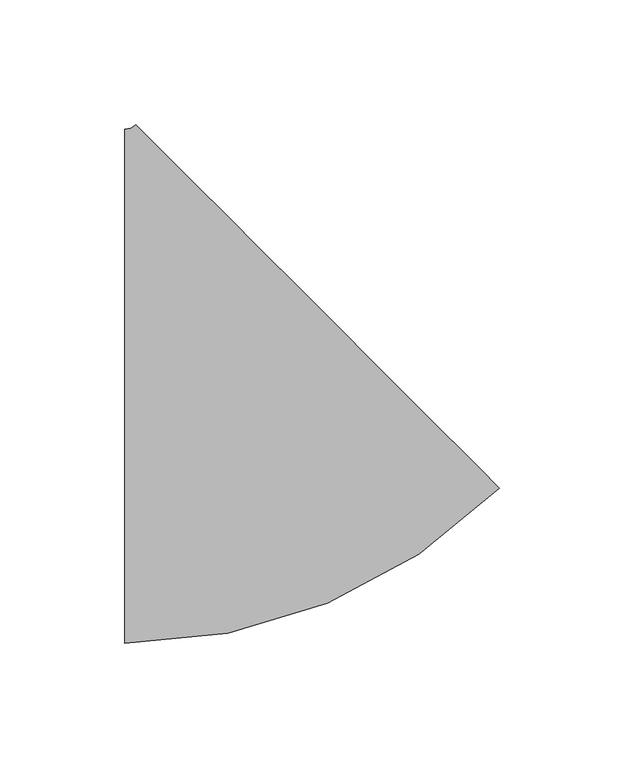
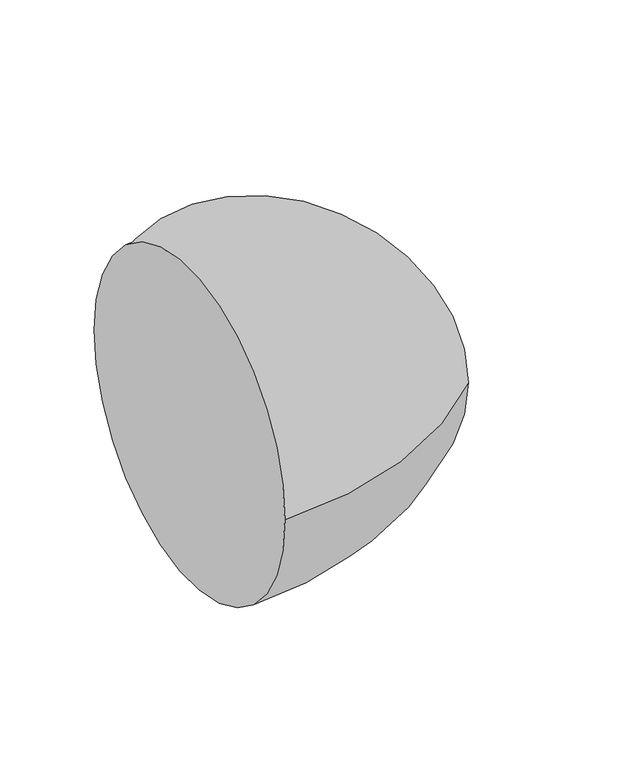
"""IFC4 building model written with IfcOpenShell, lengths in millimetres: pipe fitting geometry, M_Codo - Genérico : Estándar."""

import ifcopenshell
import ifcopenshell.guid

model = None  # the IFC model being written
_history = None  # IfcOwnerHistory: only IFC2X3 demands one
_inside = {}  # id of a spatial element -> (the spatial element, [elements in it])
_under = {}  # id of a project, library or spatial element -> (it, [spatial elements below it])
_declared = {}  # id of a project -> (the project, [libraries it declares])
_typed = {}  # id of a type object -> (the type object, [elements of that type])
_made_of = {}  # id of a material, layer set ... -> (it, [elements and type objects made of it])


def new_model(schema):
    """Start an empty IFC model of exactly this schema.

    Asked for "IFC4X3", IfcOpenShell would pick the latest addendum, in which some entities
    have other attributes; the version numbers below select the first issue.
    IFC2X3 requires an IfcOwnerHistory on every rooted entity: one is made here for all.
    """
    global model, _history
    if schema == "IFC4X3":
        model = ifcopenshell.file(schema_version=(4, 3, 0, 0))
    else:
        model = ifcopenshell.file(schema=schema)
    _inside.clear()
    _under.clear()
    _declared.clear()
    _typed.clear()
    _made_of.clear()
    _history = None
    if model.schema == "IFC2X3":
        org = make("IfcOrganization", Name="unknown")
        user = make(
            "IfcPersonAndOrganization",
            ThePerson=make("IfcPerson", FamilyName="unknown"),
            TheOrganization=org,
        )
        app = make(
            "IfcApplication",
            ApplicationDeveloper=org,
            Version="unknown",
            ApplicationFullName="unknown",
            ApplicationIdentifier="unknown",
        )
        _history = make(
            "IfcOwnerHistory",
            OwningUser=user,
            OwningApplication=app,
            ChangeAction="ADDED",
            CreationDate=0,
        )
    return model


def make(cls, **values):
    """One entity of the class cls with the attributes given. An attribute that is None is left unset."""
    return model.create_entity(
        cls, **{name: value for name, value in values.items() if value is not None}
    )


def rooted(cls, **values):
    """An entity with a GlobalId (a new one), such as an element, a storey or a relation."""
    return make(cls, GlobalId=ifcopenshell.guid.new(), OwnerHistory=_history, **values)


def si_unit(unit_type, name, prefix=None):
    """IfcSIUnit, for example si_unit("LENGTHUNIT", "METRE", prefix="MILLI")."""
    return make("IfcSIUnit", UnitType=unit_type, Prefix=prefix, Name=name)


def assignment(units):
    """IfcUnitAssignment: the units of a project."""
    return None if units is None else make("IfcUnitAssignment", Units=units)


def point(xyz):
    """IfcCartesianPoint."""
    return None if xyz is None else make("IfcCartesianPoint", Coordinates=xyz)


def direction(xyz):
    """IfcDirection."""
    return None if xyz is None else make("IfcDirection", DirectionRatios=xyz)


def frame(location, z_axis=None, x_axis=None):
    """IfcAxis2Placement3D, a coordinate frame: its origin and axes. An axis left out is left unset."""
    return make(
        "IfcAxis2Placement3D",
        Location=point(location),
        Axis=direction(z_axis),
        RefDirection=direction(x_axis),
    )


def origin():
    """The frame at (0, 0, 0) with its axes left unset."""
    return frame((0.0, 0.0, 0.0))


def place(relative_to, where):
    """IfcLocalPlacement: puts the frame where relative to a parent placement (None: the world)."""
    return make(
        "IfcLocalPlacement", PlacementRelTo=relative_to, RelativePlacement=where
    )


def context(
    kind, dimensions, precision=None, world=None, true_north=None, identifier=None
):
    """IfcGeometricRepresentationContext, for example the 3D "Model" context."""
    return make(
        "IfcGeometricRepresentationContext",
        ContextIdentifier=identifier,
        ContextType=kind,
        CoordinateSpaceDimension=dimensions,
        Precision=precision,
        WorldCoordinateSystem=world,
        TrueNorth=true_north,
    )


def project(units=None, contexts=None):
    """IfcProject with its units and contexts."""
    return rooted(
        "IfcProject",
        Name="project",
        RepresentationContexts=contexts,
        UnitsInContext=assignment(units),
    )


def spatial(cls, under=None, at=None, **own):
    """A site, building, storey or space (cls), placed at a placement, below another one or the project."""
    s = rooted(cls, ObjectPlacement=at, **own)
    if under is not None:
        _under.setdefault(under.id(), (under, []))[1].append(s)
    return s


def circle_curve(where, radius):
    """IfcCircle in the frame where."""
    return make("IfcCircle", Position=where, Radius=radius)


def ellipse_curve(where, semi_axis1, semi_axis2):
    """IfcEllipse in the frame where."""
    return make(
        "IfcEllipse", Position=where, SemiAxis1=semi_axis1, SemiAxis2=semi_axis2
    )


def trimmed(basis, trim1, trim2, sense, master):
    """IfcTrimmedCurve: the piece of a basis curve between two trims."""
    return make(
        "IfcTrimmedCurve",
        BasisCurve=basis,
        Trim1=trim1,
        Trim2=trim2,
        SenseAgreement=sense,
        MasterRepresentation=master,
    )


def shape(context_of_items, identifier, shape_type, items):
    """IfcShapeRepresentation: the items that make up one representation, for example the "Body"."""
    return make(
        "IfcShapeRepresentation",
        ContextOfItems=context_of_items,
        RepresentationIdentifier=identifier,
        RepresentationType=shape_type,
        Items=items,
    )


def source(mapping_origin, context_of_items, identifier, shape_type, items):
    """IfcRepresentationMap: a shape defined once, which mapped items show again and again."""
    return make(
        "IfcRepresentationMap",
        MappingOrigin=mapping_origin,
        MappedRepresentation=shape(context_of_items, identifier, shape_type, items),
    )


def transform(
    local_origin,
    x_axis=None,
    y_axis=None,
    z_axis=None,
    scale=None,
    scale2=None,
    scale3=None,
    uniform=True,
):
    """IfcCartesianTransformationOperator3D, or its non-uniform kind. x_axis, y_axis, z_axis: its Axis1, 2, 3."""
    if uniform:
        return make(
            "IfcCartesianTransformationOperator3D",
            Axis1=direction(x_axis),
            Axis2=direction(y_axis),
            LocalOrigin=point(local_origin),
            Scale=scale,
            Axis3=direction(z_axis),
        )
    return make(
        "IfcCartesianTransformationOperator3DnonUniform",
        Axis1=direction(x_axis),
        Axis2=direction(y_axis),
        LocalOrigin=point(local_origin),
        Scale=scale,
        Axis3=direction(z_axis),
        Scale2=scale2,
        Scale3=scale3,
    )


def mapped(mapping_source, mapping_target):
    """IfcMappedItem: shows the shape of a source again, moved by a transform."""
    return make(
        "IfcMappedItem", MappingSource=mapping_source, MappingTarget=mapping_target
    )


def made_of(thing, what):
    """Note that an element or type object is made of a material, layer set ...; save() writes the relation."""
    if what is not None:
        _made_of.setdefault(what.id(), (what, []))[1].append(thing)
    return thing


def element(
    cls,
    number,
    at=None,
    inside=None,
    cuts=None,
    type_object=None,
    material=None,
    context=None,
    identifier="Body",
    shape_type=None,
    held_by="IfcProductDefinitionShape",
    body=None,
    shapes=None,
    **own,
):
    """One element of the class cls, such as IfcWall. Its Tag is "e" and its number.

    at: its placement. inside: the storey or other place that contains it. cuts: it is an
    opening in that element (IfcRelVoidsElement). A single representation is given by context,
    identifier, shape_type and body (its items); several are given by shapes. held_by: the class
    of the entity that holds the representations. save() writes the other relations.
    """
    e = rooted(cls, Tag="e%d" % number, ObjectPlacement=at, **own)
    if body is not None:
        shapes = [shape(context, identifier, shape_type, body)]
    if shapes is not None:
        e.Representation = make(held_by, Representations=shapes)
    if inside is not None:
        _inside.setdefault(inside.id(), (inside, []))[1].append(e)
    if cuts is not None:
        rooted(
            "IfcRelVoidsElement", RelatingBuildingElement=cuts, RelatedOpeningElement=e
        )
    if type_object is not None:
        _typed.setdefault(type_object.id(), (type_object, []))[1].append(e)
    return made_of(e, material)


def aggregate(whole, parts):
    """IfcRelAggregates: a whole, such as a stair, and the parts it consists of."""
    return rooted("IfcRelAggregates", RelatingObject=whole, RelatedObjects=parts)


def save(model, path):
    """Write the relations noted so far, then the file.

    IfcRelAggregates (storeys below a building ...), IfcRelContainedInSpatialStructure (elements
    in a storey), IfcRelDefinesByType, IfcRelAssociatesMaterial and IfcRelDeclares: one each for
    every whole, place, type object, material and project.
    """
    for whole, parts in _under.values():
        aggregate(whole, parts)
    for where, things in _inside.values():
        rooted(
            "IfcRelContainedInSpatialStructure",
            RelatedElements=things,
            RelatingStructure=where,
        )
    for kind, things in _typed.values():
        rooted("IfcRelDefinesByType", RelatedObjects=things, RelatingType=kind)
    for what, things in _made_of.values():
        rooted("IfcRelAssociatesMaterial", RelatedObjects=things, RelatingMaterial=what)
    for by, libraries in _declared.values():
        rooted("IfcRelDeclares", RelatingContext=by, RelatedDefinitions=libraries)
    model.write(path)


def plane_surface(at):
    """IfcPlane: the flat surface through the origin of the frame at, square to its z axis."""
    return make("IfcPlane", Position=at)


def revolved_surface(curve, axis_point, axis_direction):
    """IfcSurfaceOfRevolution: the curve turned about the line through axis_point along axis_direction."""
    return make(
        "IfcSurfaceOfRevolution",
        SweptCurve=make("IfcArbitraryOpenProfileDef", ProfileType="CURVE", Curve=curve),
        AxisPosition=make("IfcAxis1Placement", Location=point(axis_point), Axis=direction(axis_direction)),
    )


def advanced_brep(points, edges, surfaces, faces):
    """IfcAdvancedBrep: a solid bounded by faces that lie on surfaces and meet in shared edges.

    An edge is (start, end): straight between two places in points (the first is 0);
    or (start, end, curve); or (start, end, curve, False) where it runs against its curve.
    A face is (place in surfaces, loops), or (place, loops, False) where it looks against
    its surface's normal. A loop lists edges by number (the first is 1), with a minus sign
    where the edge is run from its end to its start. The first loop is the outer one.
    """
    corners = [point(p) for p in points]
    vertices = [make("IfcVertexPoint", VertexGeometry=c) for c in corners]
    made = []
    for start, end, *more in edges:
        made.append(
            make(
                "IfcEdgeCurve",
                EdgeStart=vertices[start],
                EdgeEnd=vertices[end],
                EdgeGeometry=more[0] if more else make("IfcPolyline", Points=[corners[start], corners[end]]),
                SameSense=more[1] if len(more) > 1 else True,
            )
        )
    hull = []
    for where, loops, *sense in faces:
        bounds = []
        for j, loop in enumerate(loops):
            ring = [make("IfcOrientedEdge", EdgeElement=made[abs(k) - 1], Orientation=k > 0) for k in loop]
            bounds.append(
                make(
                    "IfcFaceOuterBound" if j == 0 else "IfcFaceBound",
                    Bound=make("IfcEdgeLoop", EdgeList=ring),
                    Orientation=True,
                )
            )
        hull.append(make("IfcAdvancedFace", Bounds=bounds, FaceSurface=surfaces[where], SameSense=sense[0] if sense else True))
    return make("IfcAdvancedBrep", Outer=make("IfcClosedShell", CfsFaces=hull))


def pipe_fitting_57378e20(model_context):
    return source(origin(), model_context, "Body", "AdvancedBrep", [
        advanced_brep(
        [(-45.3678488, -103.1875, 0.0), (-45.3678488, 103.1875, 0.0), (105.0419014, -40.8913293, 0.0), (-40.8780055, 105.0470872, 0.0)],
        [
            (0, 1, circle_curve(frame((-45.3678488, 0.0, 0.0), z_axis=(-1.0, 0.0, 0.0), x_axis=(0.0, 1.0, 0.0)), 103.1875)),
            (1, 0, circle_curve(frame((-45.3678488, 0.0, 0.0), z_axis=(-1.0, 0.0, 0.0), x_axis=(0.0, 1.0, 0.0)), 103.1875)),
            (2, 3, circle_curve(frame((32.0819479, 32.0778789, 0.0), z_axis=(0.7071516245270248, 0.7070619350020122, 0.0), x_axis=(-0.7070619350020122, 0.7071516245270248, 0.0)), 103.1875)),
            (3, 2, circle_curve(frame((32.0819479, 32.0778789, 0.0), z_axis=(0.7071516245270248, 0.7070619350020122, 0.0), x_axis=(-0.7070619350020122, 0.7071516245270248, 0.0)), 103.1875)),
            (3, 1, circle_curve(frame((-45.3678488, 109.5375, 0.0), z_axis=(0.0, 0.0, -1.0), x_axis=(0.0, -1.0, 0.0)), 6.35)),
            (0, 2, circle_curve(frame((-45.3678488, 109.5375, 0.0), z_axis=(0.0, 0.0, 1.0), x_axis=(0.0, -1.0, 0.0)), 212.725)),
        ],
        [
            plane_surface(frame((-45.3678488, 0.0, 0.0), z_axis=(-1.0, 0.0, 0.0), x_axis=(0.0, 0.0, 1.0))),
            plane_surface(frame((32.0819479, 32.0778789, 0.0), z_axis=(0.7071516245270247, 0.7070619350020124, 0.0), x_axis=(0.0, 0.0, 1.0))),
            revolved_surface(trimmed(ellipse_curve(frame((-45.3678488, 0.0, 0.0), z_axis=(-1.0, 0.0, 0.0), x_axis=(0.0, 1.0, 0.0)), 103.1875, 103.1875), [point((-45.3678488, -103.1875, 0.0))], [point((-45.3678488, 103.1875, 0.0))], True, "CARTESIAN"), (-45.3678488, 109.5375, 0.0), (0.0, 0.0, 1.0)),
            revolved_surface(trimmed(ellipse_curve(frame((-45.3678488, 0.0, 0.0), z_axis=(-1.0, 0.0, 0.0), x_axis=(0.0, 1.0, 0.0)), 103.1875, 103.1875), [point((-45.3678488, 103.1875, 0.0))], [point((-45.3678488, -103.1875, 0.0))], True, "CARTESIAN"), (-45.3678488, 109.5375, 0.0), (0.0, 0.0, 1.0)),
        ],
        [
            (0, [[1, 2]]),
            (1, [[3, 4]]),
            (2, [[5, -1, 6, -4]]),
            (3, [[-6, -2, -5, -3]]),
        ],
    ),
    ])


if __name__ == "__main__":
    model = new_model("IFC4")
    model_context = context("Model", 3, world=origin())
    ifc_project = project(units=[si_unit("LENGTHUNIT", "METRE", prefix="MILLI")], contexts=[model_context])
    site = spatial("IfcSite", under=ifc_project)
    building = spatial("IfcBuilding", under=site)
    placement = place(None, origin())
    pipe_fitting_shape = pipe_fitting_57378e20(model_context)
    element("IfcPipeFitting", 1, ObjectType="M_Codo - Genérico : Estándar", at=placement, inside=building, context=model_context, shape_type="MappedRepresentation", body=[
        mapped(pipe_fitting_shape, transform((0.0, 0.0, 0.0), x_axis=(1.0, 0.0, 0.0), y_axis=(0.0, 1.0, 0.0), z_axis=(0.0, 0.0, 1.0))),
    ])
    save(model, "model.ifc")
